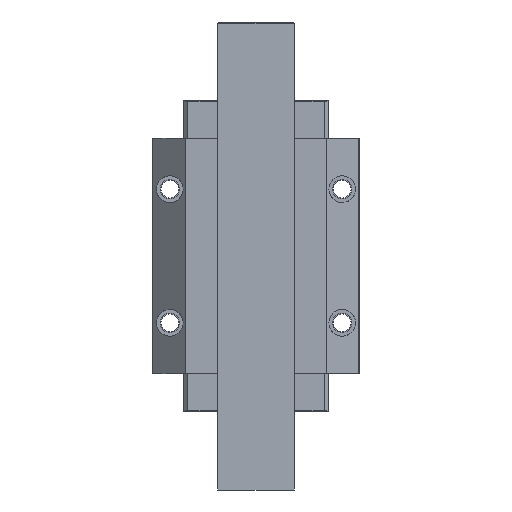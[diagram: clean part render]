
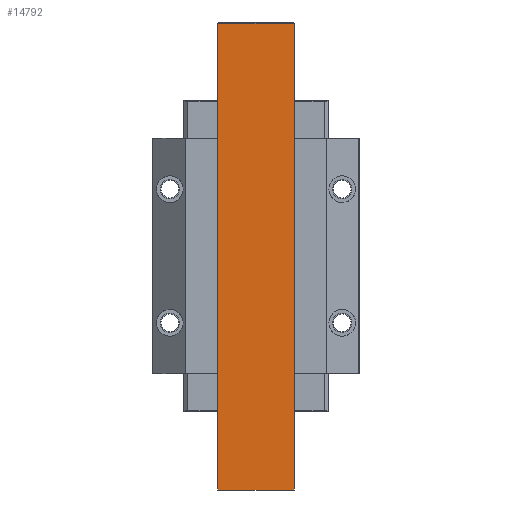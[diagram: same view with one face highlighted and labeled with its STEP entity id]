
A CAD part, front view. The second image highlights one B-rep face of the part: STEP entity #14792.
In plain terms, the highlighted planar face has unit normal (0, -1, 0).
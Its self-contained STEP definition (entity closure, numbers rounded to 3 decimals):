
#14129=DIRECTION('',(1.,0.,0.));
#14130=VECTOR('',#14129,63.);
#14131=CARTESIAN_POINT('',(-31.5,-35.,-192.65));
#14132=LINE('',#14131,#14130);
#14253=DIRECTION('',(0.,0.,1.));
#14254=VECTOR('',#14253,384.434);
#14255=CARTESIAN_POINT('',(31.5,-35.,-192.65));
#14256=LINE('',#14255,#14254);
#14257=DIRECTION('',(1.,0.,0.));
#14258=VECTOR('',#14257,63.);
#14259=CARTESIAN_POINT('',(-31.5,-35.,191.784));
#14260=LINE('',#14259,#14258);
#14261=DIRECTION('',(0.,0.,1.));
#14262=VECTOR('',#14261,384.434);
#14263=CARTESIAN_POINT('',(-31.5,-35.,-192.65));
#14264=LINE('',#14263,#14262);
#14445=CARTESIAN_POINT('',(31.5,-35.,191.784));
#14447=VERTEX_POINT('',#14445);
#14449=CARTESIAN_POINT('',(-31.5,-35.,191.784));
#14451=VERTEX_POINT('',#14449);
#14493=CARTESIAN_POINT('',(-31.5,-35.,-192.65));
#14494=VERTEX_POINT('',#14493);
#14495=CARTESIAN_POINT('',(31.5,-35.,-192.65));
#14496=VERTEX_POINT('',#14495);
#14779=CARTESIAN_POINT('',(-31.5,-35.,-192.65));
#14780=DIRECTION('',(0.,-1.,0.));
#14781=DIRECTION('',(1.,0.,0.));
#14782=AXIS2_PLACEMENT_3D('',#14779,#14780,#14781);
#14783=PLANE('',#14782);
#14785=ORIENTED_EDGE('',*,*,#14784,.T.);
#14786=ORIENTED_EDGE('',*,*,#14774,.F.);
#14787=ORIENTED_EDGE('',*,*,#14534,.F.);
#14789=ORIENTED_EDGE('',*,*,#14788,.T.);
#14790=EDGE_LOOP('',(#14785,#14786,#14787,#14789));
#14791=FACE_OUTER_BOUND('',#14790,.F.);
#14534=EDGE_CURVE('',#14494,#14496,#14132,.T.);
#14774=EDGE_CURVE('',#14496,#14447,#14256,.T.);
#14784=EDGE_CURVE('',#14451,#14447,#14260,.T.);
#14788=EDGE_CURVE('',#14494,#14451,#14264,.T.);
#14792=ADVANCED_FACE('',(#14791),#14783,.T.);
